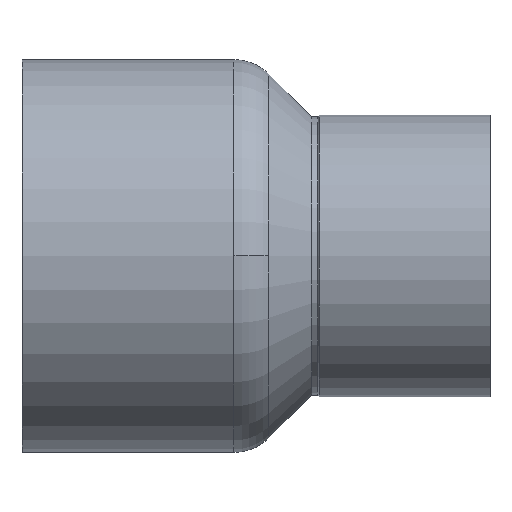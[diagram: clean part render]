
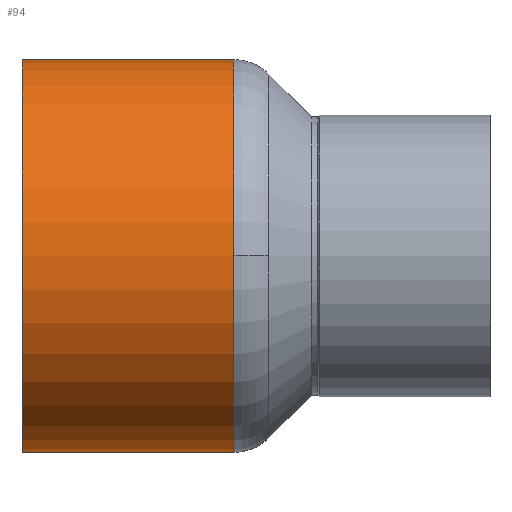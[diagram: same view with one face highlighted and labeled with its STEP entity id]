
A CAD part, top view. The second image highlights one B-rep face of the part: STEP entity #94.
In plain terms, the highlighted cylindrical face has radius 31.98 mm (diameter 63.96 mm), a partial arc.
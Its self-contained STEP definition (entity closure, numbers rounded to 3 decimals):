
#44=CARTESIAN_POINT('',(17.25,0.0,0.0));
#45=DIRECTION('',(1.0,0.0,0.0));
#46=DIRECTION('',(0.0,1.0,0.0));
#47=AXIS2_PLACEMENT_3D('',#44,#45,#46);
#48=CYLINDRICAL_SURFACE('',#47,31.98);
#49=CARTESIAN_POINT('',(0.0,31.98,0.0));
#50=VERTEX_POINT('',#49);
#51=CARTESIAN_POINT('',(34.5,31.98,0.0));
#52=VERTEX_POINT('',#51);
#53=CARTESIAN_POINT('',(0.0,31.98,0.0));
#54=DIRECTION('',(1.0,0.0,0.0));
#55=VECTOR('',#54,34.5);
#56=LINE('',#53,#55);
#57=EDGE_CURVE('',#50,#52,#56,.T.);
#58=ORIENTED_EDGE('',*,*,#57,.F.);
#59=CARTESIAN_POINT('',(0.0,-31.98,0.));
#60=VERTEX_POINT('',#59);
#61=CARTESIAN_POINT('',(0.0,0.0,0.0));
#62=DIRECTION('',(1.0,0.0,0.0));
#63=DIRECTION('',(0.0,1.0,0.0));
#64=AXIS2_PLACEMENT_3D('',#61,#62,#63);
#65=CIRCLE('',#64,31.98);
#66=EDGE_CURVE('',#50,#60,#65,.T.);
#67=ORIENTED_EDGE('',*,*,#66,.T.);
#68=CARTESIAN_POINT('',(34.5,-31.98,0.));
#69=VERTEX_POINT('',#68);
#70=CARTESIAN_POINT('',(34.5,-31.98,0.));
#71=DIRECTION('',(-1.0,0.0,0.0));
#72=VECTOR('',#71,34.5);
#73=LINE('',#70,#72);
#74=EDGE_CURVE('',#69,#60,#73,.T.);
#75=ORIENTED_EDGE('',*,*,#74,.F.);
#76=CARTESIAN_POINT('',(34.5,0.,31.98));
#77=VERTEX_POINT('',#76);
#78=CARTESIAN_POINT('',(34.5,0.0,0.0));
#79=DIRECTION('',(1.0,0.0,0.0));
#80=DIRECTION('',(0.0,1.0,0.0));
#81=AXIS2_PLACEMENT_3D('',#78,#79,#80);
#82=CIRCLE('',#81,31.98);
#83=EDGE_CURVE('',#77,#69,#82,.T.);
#84=ORIENTED_EDGE('',*,*,#83,.F.);
#85=CARTESIAN_POINT('',(34.5,0.0,0.0));
#86=DIRECTION('',(1.0,0.0,0.0));
#87=DIRECTION('',(0.0,1.0,0.0));
#88=AXIS2_PLACEMENT_3D('',#85,#86,#87);
#89=CIRCLE('',#88,31.98);
#90=EDGE_CURVE('',#52,#77,#89,.T.);
#91=ORIENTED_EDGE('',*,*,#90,.F.);
#92=EDGE_LOOP('',(#58,#67,#75,#84,#91));
#93=FACE_OUTER_BOUND('',#92,.T.);
#94=ADVANCED_FACE('',(#93),#48,.T.);
